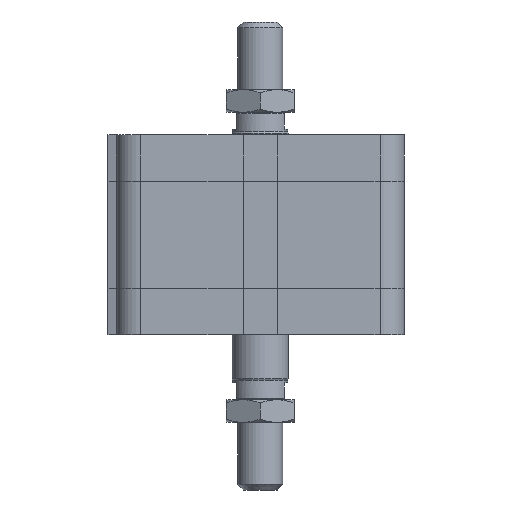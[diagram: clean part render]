
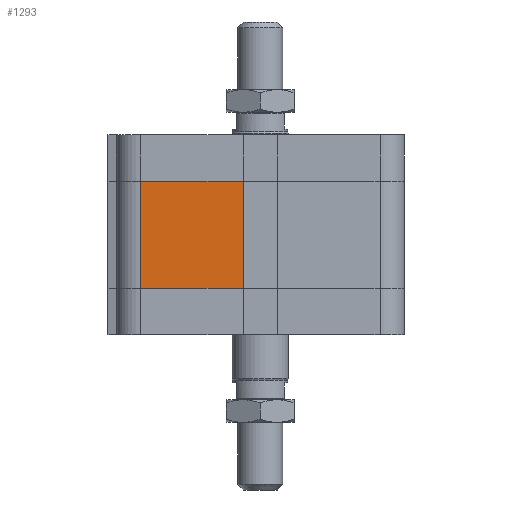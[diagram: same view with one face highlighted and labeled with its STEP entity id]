
A CAD part, left-side view. The second image highlights one B-rep face of the part: STEP entity #1293.
In plain terms, the highlighted planar face has unit normal (-1, 0, 0).
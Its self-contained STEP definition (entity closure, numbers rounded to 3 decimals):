
#1204=CARTESIAN_POINT('',(-51.0,42.5,16.5));
#1205=VERTEX_POINT('',#1204);
#1213=CARTESIAN_POINT('',(-51.0,42.5,54.5));
#1214=VERTEX_POINT('',#1213);
#1215=CARTESIAN_POINT('',(-51.0,42.5,16.5));
#1216=DIRECTION('',(0.0,0.0,1.0));
#1217=VECTOR('',#1216,38.);
#1218=LINE('',#1215,#1217);
#1219=EDGE_CURVE('',#1205,#1214,#1218,.T.);
#1263=CARTESIAN_POINT('',(-51.,6.,0.0));
#1264=DIRECTION('',(-1.0,0.0,0.0));
#1265=DIRECTION('',(0.0,0.0,1.0));
#1266=AXIS2_PLACEMENT_3D('',#1263,#1264,#1265);
#1267=PLANE('',#1266);
#1268=CARTESIAN_POINT('',(-51.,6.,16.5));
#1269=VERTEX_POINT('',#1268);
#1270=CARTESIAN_POINT('',(-51.0,42.5,16.5));
#1271=DIRECTION('',(0.0,-1.0,0.0));
#1272=VECTOR('',#1271,36.5);
#1273=LINE('',#1270,#1272);
#1274=EDGE_CURVE('',#1205,#1269,#1273,.T.);
#1275=ORIENTED_EDGE('',*,*,#1274,.T.);
#1276=CARTESIAN_POINT('',(-51.,6.,54.5));
#1277=VERTEX_POINT('',#1276);
#1278=CARTESIAN_POINT('',(-51.,6.,16.5));
#1279=DIRECTION('',(0.0,0.0,1.0));
#1280=VECTOR('',#1279,38.);
#1281=LINE('',#1278,#1280);
#1282=EDGE_CURVE('',#1269,#1277,#1281,.T.);
#1283=ORIENTED_EDGE('',*,*,#1282,.T.);
#1284=CARTESIAN_POINT('',(-51.0,42.5,54.5));
#1285=DIRECTION('',(0.0,-1.0,0.0));
#1286=VECTOR('',#1285,36.5);
#1287=LINE('',#1284,#1286);
#1288=EDGE_CURVE('',#1214,#1277,#1287,.T.);
#1289=ORIENTED_EDGE('',*,*,#1288,.F.);
#1290=ORIENTED_EDGE('',*,*,#1219,.F.);
#1291=EDGE_LOOP('',(#1275,#1283,#1289,#1290));
#1292=FACE_OUTER_BOUND('',#1291,.T.);
#1293=ADVANCED_FACE('',(#1292),#1267,.T.);
